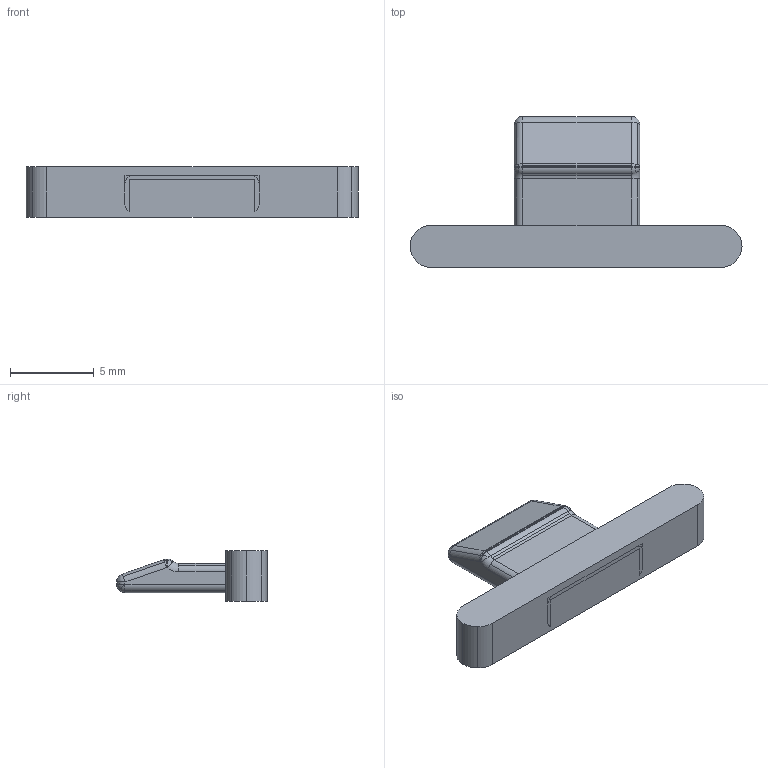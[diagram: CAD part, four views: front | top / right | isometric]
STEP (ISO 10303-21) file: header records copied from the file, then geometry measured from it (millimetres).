
FILE_DESCRIPTION (( 'STEP AP214' ), '1' );
FILE_NAME ('SENSOR14_CLIP1.STEP', '2025-12-31T15:38:01', ( '' ), ( '' ), 'SwSTEP 2.0', 'SolidWorks 2021', '' );
FILE_SCHEMA (( 'AUTOMOTIVE_DESIGN' ));
Length unit declared in the file: millimetre
Products named in the file (1): SENSOR14_CLIP1
Bounding box: 19.81 x 9 x 3 mm (x, y, z)
Volume: 223.3 mm3; surface area: 330.6 mm2
Topology: 1 solids, 1 shells, 70 faces, 179 edges, 113 vertices
Faces by surface type: cylinder 37, plane 17, sphere 14, torus 2
Entity records: 2176 total; most frequent: DIRECTION 419, CARTESIAN_POINT 364, ORIENTED_EDGE 354, EDGE_CURVE 177, AXIS2_PLACEMENT_3D 172, VERTEX_POINT 113, CIRCLE 101, LINE 75
